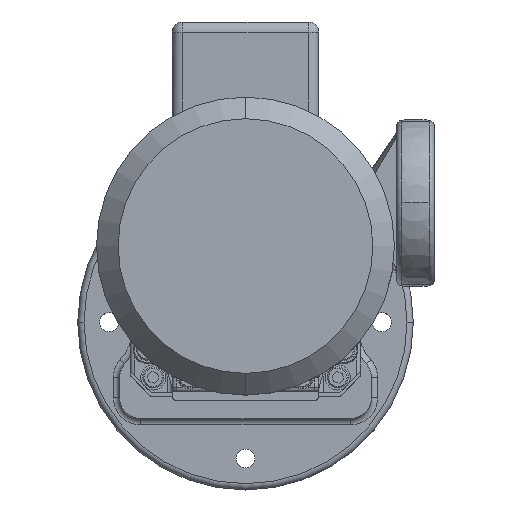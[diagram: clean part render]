
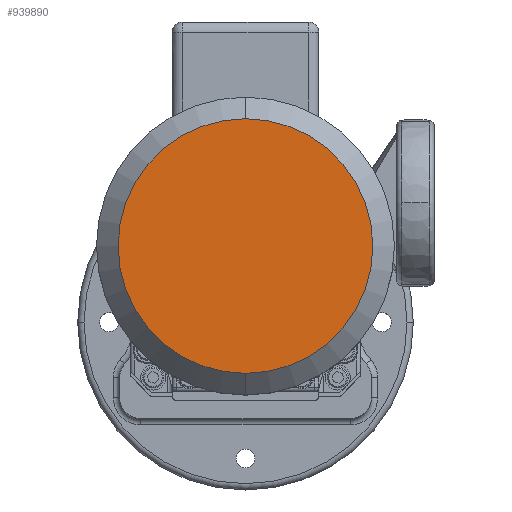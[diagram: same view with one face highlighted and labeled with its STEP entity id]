
A CAD part, top view. The second image highlights one B-rep face of the part: STEP entity #939890.
In plain terms, the highlighted planar face has unit normal (0, 0, 1) as drawn and (1, 0, 0) by its records, which use the part's own axes.
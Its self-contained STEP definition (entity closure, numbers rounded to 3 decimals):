
#935000=CARTESIAN_POINT('',(217.,-60.708,0.
));
#935010=VERTEX_POINT('',#935000);
#935040=CARTESIAN_POINT('',(217.,0.,
0.));
#935050=DIRECTION('',(1.,0.,0.));
#935060=DIRECTION('',(0.,1.,0.));
#935070=AXIS2_PLACEMENT_3D('',#935040,#935050,#935060);
#935080=CIRCLE('',#935070,60.708);
#935090=CARTESIAN_POINT('',(217.,60.708,0.))
;
#935100=VERTEX_POINT('',#935090);
#935110=EDGE_CURVE('',#935010,#935100,#935080,.T.);
#939790=CARTESIAN_POINT('',(217.,35.5,0.));
#939800=DIRECTION('',(1.,0.,0.));
#939810=DIRECTION('',(0.,0.,-1.));
#939820=AXIS2_PLACEMENT_3D('',#939790,#939800,#939810);
#939830=PLANE('',#939820);
#939840=ORIENTED_EDGE('',*,*,#935110,.T.);
#939850=EDGE_CURVE('',#935100,#935010,#935080,.T.);
#939860=ORIENTED_EDGE('',*,*,#939850,.T.);
#939870=EDGE_LOOP('',(#939860,#939840));
#939880=FACE_OUTER_BOUND('',#939870,.T.);
#939890=ADVANCED_FACE('',(#939880),#939830,.T.);
